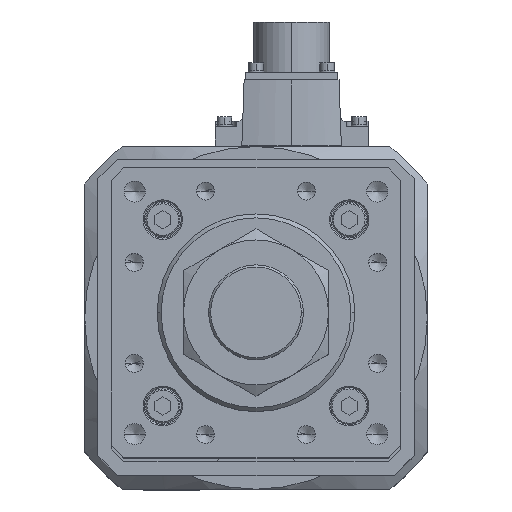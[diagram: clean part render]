
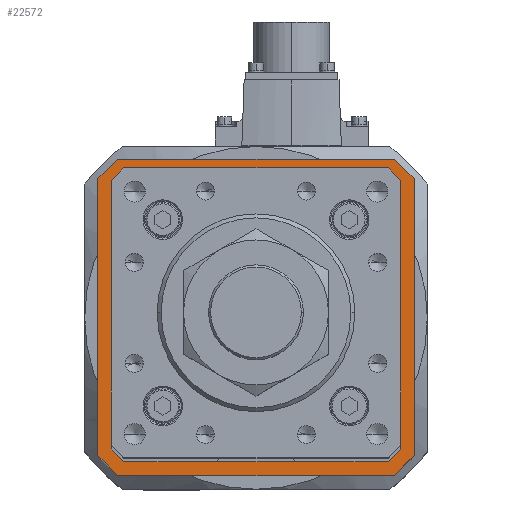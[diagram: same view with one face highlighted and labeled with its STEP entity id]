
A CAD part, top view. The second image highlights one B-rep face of the part: STEP entity #22572.
In plain terms, the highlighted planar face has unit normal (0, 0, 1).
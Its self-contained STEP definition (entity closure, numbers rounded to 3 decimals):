
#272 = DIRECTION ( 'NONE',  ( 0., 1., 0. ) ) ;
#383 = CARTESIAN_POINT ( 'NONE',  ( -60., 52.5, -119. ) ) ;
#394 = CARTESIAN_POINT ( 'NONE',  ( -53.5, -49.593, -119. ) ) ;
#1053 = EDGE_CURVE ( 'NONE', #12508, #36993, #1731, .T. ) ;
#1731 = LINE ( 'NONE', #29124, #3135 ) ;
#2193 = CARTESIAN_POINT ( 'NONE',  ( 53.5, -49.593, -119. ) ) ;
#2246 = VECTOR ( 'NONE', #27390, 1000. ) ;
#2355 = ORIENTED_EDGE ( 'NONE', *, *, #36460, .T. ) ;
#2400 = VERTEX_POINT ( 'NONE', #32832 ) ;
#3135 = VECTOR ( 'NONE', #3765, 1000. ) ;
#3567 = DIRECTION ( 'NONE',  ( 0., 1., 0. ) ) ;
#3598 = LINE ( 'NONE', #25183, #33095 ) ;
#3643 = EDGE_LOOP ( 'NONE', ( #14302, #17614, #29462, #7059, #34686, #4682, #26834, #21161 ) ) ;
#3678 = CARTESIAN_POINT ( 'NONE',  ( -49.593, -53.5, -119. ) ) ;
#3765 = DIRECTION ( 'NONE',  ( -0.707, 0.707, 0. ) ) ;
#3774 = EDGE_CURVE ( 'NONE', #36993, #7501, #12967, .T. ) ;
#3785 = DIRECTION ( 'NONE',  ( 0.707, 0.707, 0. ) ) ;
#3999 = EDGE_CURVE ( 'NONE', #5818, #17242, #5171, .T. ) ;
#4063 = DIRECTION ( 'NONE',  ( 0.707, 0.707, 0. ) ) ;
#4447 = VERTEX_POINT ( 'NONE', #3678 ) ;
#4450 = VERTEX_POINT ( 'NONE', #18301 ) ;
#4528 = VECTOR ( 'NONE', #21682, 1000. ) ;
#4682 = ORIENTED_EDGE ( 'NONE', *, *, #3999, .F. ) ;
#4807 = VERTEX_POINT ( 'NONE', #22386 ) ;
#4980 = CARTESIAN_POINT ( 'NONE',  ( 49.593, -53.5, -119. ) ) ;
#5090 = EDGE_CURVE ( 'NONE', #26690, #4447, #14703, .T. ) ;
#5171 = LINE ( 'NONE', #11646, #30577 ) ;
#5818 = VERTEX_POINT ( 'NONE', #20367 ) ;
#5943 = LINE ( 'NONE', #11363, #20037 ) ;
#5954 = EDGE_CURVE ( 'NONE', #8076, #29952, #15102, .T. ) ;
#6121 = ORIENTED_EDGE ( 'NONE', *, *, #7762, .T. ) ;
#6162 = VECTOR ( 'NONE', #4063, 1000. ) ;
#6291 = EDGE_CURVE ( 'NONE', #4807, #8076, #5943, .T. ) ;
#6643 = EDGE_CURVE ( 'NONE', #17242, #12508, #25908, .T. ) ;
#6681 = EDGE_CURVE ( 'NONE', #2400, #10470, #7287, .T. ) ;
#7059 = ORIENTED_EDGE ( 'NONE', *, *, #1053, .F. ) ;
#7287 = LINE ( 'NONE', #21798, #2246 ) ;
#7501 = VERTEX_POINT ( 'NONE', #18637 ) ;
#7675 = DIRECTION ( 'NONE',  ( 0., -1., 0. ) ) ;
#7736 = CARTESIAN_POINT ( 'NONE',  ( 52.5, -60., -119. ) ) ;
#7762 = EDGE_CURVE ( 'NONE', #4447, #11310, #10405, .T. ) ;
#8076 = VERTEX_POINT ( 'NONE', #33197 ) ;
#8564 = DIRECTION ( 'NONE',  ( -0.707, -0.707, 0. ) ) ;
#9347 = VECTOR ( 'NONE', #7675, 1000. ) ;
#9395 = LINE ( 'NONE', #14279, #29766 ) ;
#9397 = ORIENTED_EDGE ( 'NONE', *, *, #5090, .T. ) ;
#9949 = EDGE_CURVE ( 'NONE', #4450, #2400, #16168, .T. ) ;
#10405 = LINE ( 'NONE', #23021, #35329 ) ;
#10470 = VERTEX_POINT ( 'NONE', #2193 ) ;
#10580 = ORIENTED_EDGE ( 'NONE', *, *, #20805, .T. ) ;
#10743 = EDGE_LOOP ( 'NONE', ( #10580, #31060, #19264, #29121, #9397, #6121, #2355, #10836 ) ) ;
#10836 = ORIENTED_EDGE ( 'NONE', *, *, #25985, .T. ) ;
#10927 = DIRECTION ( 'NONE',  ( 1., 0., 0. ) ) ;
#11310 = VERTEX_POINT ( 'NONE', #394 ) ;
#11363 = CARTESIAN_POINT ( 'NONE',  ( 52.5, 60., -119. ) ) ;
#11379 = CARTESIAN_POINT ( 'NONE',  ( -49.8, -53.5, -119. ) ) ;
#11646 = CARTESIAN_POINT ( 'NONE',  ( 60., -52.5, -119. ) ) ;
#12508 = VERTEX_POINT ( 'NONE', #27103 ) ;
#12967 = LINE ( 'NONE', #383, #16144 ) ;
#13153 = EDGE_CURVE ( 'NONE', #7501, #4807, #24423, .T. ) ;
#13851 = FACE_OUTER_BOUND ( 'NONE', #3643, .T. ) ;
#14279 = CARTESIAN_POINT ( 'NONE',  ( 49.8, 53.5, -119. ) ) ;
#14292 = DIRECTION ( 'NONE',  ( 1., 0., 0. ) ) ;
#14302 = ORIENTED_EDGE ( 'NONE', *, *, #6291, .F. ) ;
#14478 = DIRECTION ( 'NONE',  ( 0.707, -0.707, 0. ) ) ;
#14703 = LINE ( 'NONE', #11379, #23733 ) ;
#15102 = LINE ( 'NONE', #27258, #23265 ) ;
#15447 = CARTESIAN_POINT ( 'NONE',  ( -53.5, 49.8, -119. ) ) ;
#15721 = VECTOR ( 'NONE', #3567, 1000. ) ;
#16144 = VECTOR ( 'NONE', #272, 1000. ) ;
#16168 = LINE ( 'NONE', #28867, #25223 ) ;
#17086 = LINE ( 'NONE', #36584, #9347 ) ;
#17198 = DIRECTION ( 'NONE',  ( 1., 0., 0. ) ) ;
#17208 = DIRECTION ( 'NONE',  ( -0.707, 0.707, 0. ) ) ;
#17242 = VERTEX_POINT ( 'NONE', #7736 ) ;
#17323 = VERTEX_POINT ( 'NONE', #20041 ) ;
#17501 = AXIS2_PLACEMENT_3D ( 'NONE', #22590, #22458, #10927 ) ;
#17614 = ORIENTED_EDGE ( 'NONE', *, *, #13153, .F. ) ;
#18146 = CARTESIAN_POINT ( 'NONE',  ( -60., -52.5, -119. ) ) ;
#18301 = CARTESIAN_POINT ( 'NONE',  ( 49.593, 53.5, -119. ) ) ;
#18448 = LINE ( 'NONE', #33082, #6162 ) ;
#18477 = EDGE_CURVE ( 'NONE', #10470, #26690, #3598, .T. ) ;
#18517 = VECTOR ( 'NONE', #3785, 1000. ) ;
#18637 = CARTESIAN_POINT ( 'NONE',  ( -60., 52.5, -119. ) ) ;
#19262 = DIRECTION ( 'NONE',  ( 0.707, -0.707, 0. ) ) ;
#19264 = ORIENTED_EDGE ( 'NONE', *, *, #6681, .T. ) ;
#20037 = VECTOR ( 'NONE', #14292, 1000. ) ;
#20041 = CARTESIAN_POINT ( 'NONE',  ( -53.5, 49.593, -119. ) ) ;
#20367 = CARTESIAN_POINT ( 'NONE',  ( 60., -52.5, -119. ) ) ;
#20805 = EDGE_CURVE ( 'NONE', #21890, #4450, #9395, .T. ) ;
#21107 = FACE_BOUND ( 'NONE', #10743, .T. ) ;
#21161 = ORIENTED_EDGE ( 'NONE', *, *, #5954, .F. ) ;
#21295 = CARTESIAN_POINT ( 'NONE',  ( -52.5, 60., -119. ) ) ;
#21682 = DIRECTION ( 'NONE',  ( -1., 0., 0. ) ) ;
#21798 = CARTESIAN_POINT ( 'NONE',  ( 53.5, -49.8, -119. ) ) ;
#21890 = VERTEX_POINT ( 'NONE', #28203 ) ;
#22339 = PLANE ( 'NONE',  #17501 ) ;
#22386 = CARTESIAN_POINT ( 'NONE',  ( -52.5, 60., -119. ) ) ;
#22458 = DIRECTION ( 'NONE',  ( 0., 0., 1. ) ) ;
#22572 = ADVANCED_FACE ( 'NONE', ( #21107, #13851 ), #22339, .T. ) ;
#22590 = CARTESIAN_POINT ( 'NONE',  ( 0., 0., -119. ) ) ;
#23021 = CARTESIAN_POINT ( 'NONE',  ( -53.646, -49.446, -119. ) ) ;
#23265 = VECTOR ( 'NONE', #19262, 1000. ) ;
#23733 = VECTOR ( 'NONE', #34519, 1000. ) ;
#24237 = CARTESIAN_POINT ( 'NONE',  ( 52.5, -60., -119. ) ) ;
#24423 = LINE ( 'NONE', #21295, #18517 ) ;
#25183 = CARTESIAN_POINT ( 'NONE',  ( 49.446, -53.646, -119. ) ) ;
#25223 = VECTOR ( 'NONE', #14478, 1000. ) ;
#25908 = LINE ( 'NONE', #24237, #4528 ) ;
#25985 = EDGE_CURVE ( 'NONE', #17323, #21890, #18448, .T. ) ;
#26651 = EDGE_CURVE ( 'NONE', #29952, #5818, #17086, .T. ) ;
#26690 = VERTEX_POINT ( 'NONE', #4980 ) ;
#26834 = ORIENTED_EDGE ( 'NONE', *, *, #26651, .F. ) ;
#27103 = CARTESIAN_POINT ( 'NONE',  ( -52.5, -60., -119. ) ) ;
#27258 = CARTESIAN_POINT ( 'NONE',  ( 60., 52.5, -119. ) ) ;
#27390 = DIRECTION ( 'NONE',  ( 0., -1., 0. ) ) ;
#28203 = CARTESIAN_POINT ( 'NONE',  ( -49.593, 53.5, -119. ) ) ;
#28867 = CARTESIAN_POINT ( 'NONE',  ( 53.646, 49.446, -119. ) ) ;
#29121 = ORIENTED_EDGE ( 'NONE', *, *, #18477, .T. ) ;
#29124 = CARTESIAN_POINT ( 'NONE',  ( -52.5, -60., -119. ) ) ;
#29462 = ORIENTED_EDGE ( 'NONE', *, *, #3774, .F. ) ;
#29766 = VECTOR ( 'NONE', #17198, 1000. ) ;
#29952 = VERTEX_POINT ( 'NONE', #34743 ) ;
#30577 = VECTOR ( 'NONE', #8564, 1000. ) ;
#31060 = ORIENTED_EDGE ( 'NONE', *, *, #9949, .T. ) ;
#32832 = CARTESIAN_POINT ( 'NONE',  ( 53.5, 49.593, -119. ) ) ;
#32874 = LINE ( 'NONE', #15447, #15721 ) ;
#33082 = CARTESIAN_POINT ( 'NONE',  ( -49.446, 53.646, -119. ) ) ;
#33095 = VECTOR ( 'NONE', #33279, 1000. ) ;
#33197 = CARTESIAN_POINT ( 'NONE',  ( 52.5, 60., -119. ) ) ;
#33279 = DIRECTION ( 'NONE',  ( -0.707, -0.707, 0. ) ) ;
#34519 = DIRECTION ( 'NONE',  ( -1., 0., 0. ) ) ;
#34686 = ORIENTED_EDGE ( 'NONE', *, *, #6643, .F. ) ;
#34743 = CARTESIAN_POINT ( 'NONE',  ( 60., 52.5, -119. ) ) ;
#35329 = VECTOR ( 'NONE', #17208, 1000. ) ;
#36460 = EDGE_CURVE ( 'NONE', #11310, #17323, #32874, .T. ) ;
#36584 = CARTESIAN_POINT ( 'NONE',  ( 60., 52.5, -119. ) ) ;
#36993 = VERTEX_POINT ( 'NONE', #18146 ) ;
